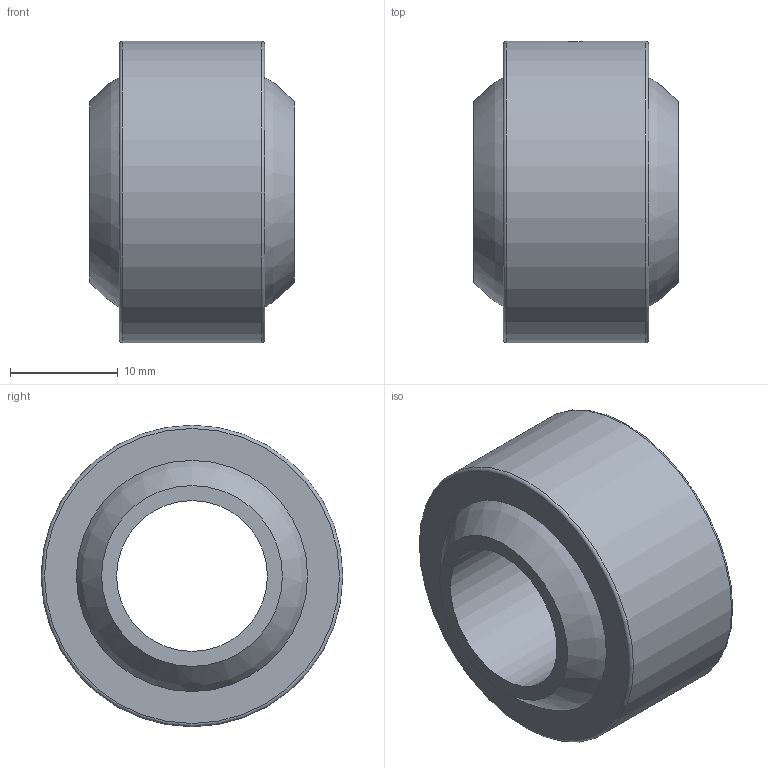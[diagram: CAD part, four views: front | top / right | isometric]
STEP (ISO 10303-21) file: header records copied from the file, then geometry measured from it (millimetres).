
FILE_DESCRIPTION( ( 'STEP AP203' ), '1' );
FILE_NAME( 'C:/Temp/Ganter_Step_05_03_2020/data/3_6/gn_648_8/gn_648_8_n/Ball joint GN 648.8-14-28-N.stp', '2020-03-12T14:14:25', ( 'License CC BY-ND 4.0' ), ( 'CADENAS' ), ' ', 'PARTsolutions', ' ' );
FILE_SCHEMA( ( 'CONFIG_CONTROL_DESIGN' ) );
Length unit declared in the file: millimetre
Products named in the file (3): Ball joint GN 648.8-14-28-N; _Ball joint GN 648.8-14-28-N-2; _Ball joint GN 648.8-14-28-N-1
Assembly tree (2 placements, depth 2):
  Ball joint GN 648.8-14-28-N
    _Ball joint GN 648.8-14-28-N-2
    _Ball joint GN 648.8-14-28-N-1
Bounding box: 19 x 28 x 28 mm (x, y, z)
Volume: 7006.8 mm3; surface area: 5234.7 mm2
Topology: 2 solids, 2 shells, 11 faces, 20 edges, 13 vertices
Faces by surface type: plane 4, cylinder 3, sphere 2, torus 2
Full cylindrical faces by diameter (mm): 2 x1, 14 x1, 28 x1
Entity records: 382 total; most frequent: CARTESIAN_POINT 69, DIRECTION 50, AXIS2_PLACEMENT_3D 25, EDGE_LOOP 24, ORIENTED_EDGE 24, FACE_OUTER_BOUND 18, CC_DESIGN_PERSON_AND_ORGANIZATION_ASSIGNMENT 13, EDGE_CURVE 12
